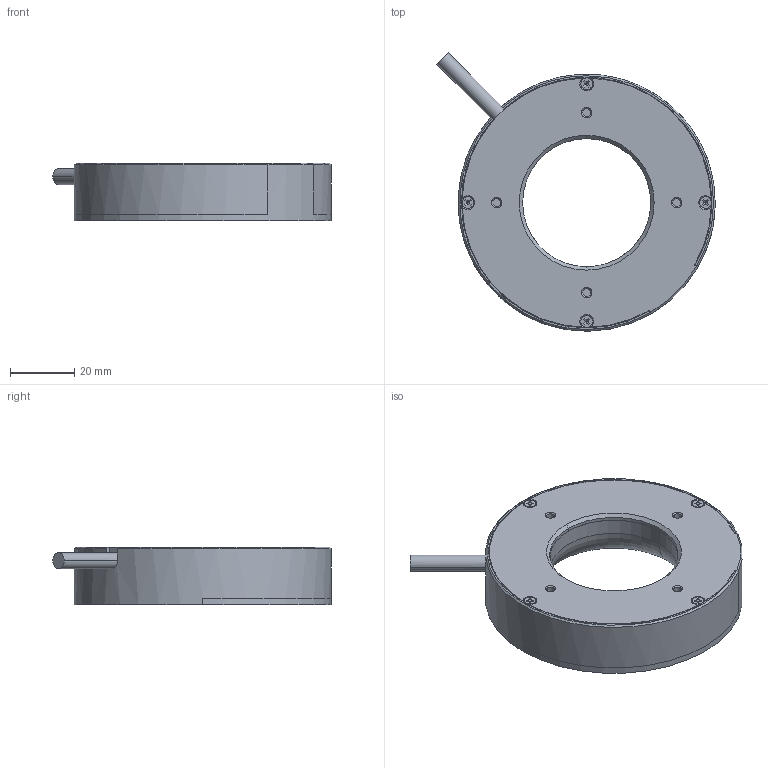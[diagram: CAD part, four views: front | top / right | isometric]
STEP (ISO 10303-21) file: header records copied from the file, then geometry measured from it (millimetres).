
FILE_DESCRIPTION((''),'2;1');
FILE_NAME('MV-LRSS-H-80-W','2022-09-02T17:07:39',('qiaoxuan5'),(''),'CREO PARAMETRIC BY PTC INC, 2020044','CREO PARAMETRIC BY PTC INC, 2020044','');
FILE_SCHEMA(('CONFIG_CONTROL_DESIGN'));
Length unit declared in the file: metre
Products named in the file (1): MV-LRSS-H-80-W
Bounding box: 86.67 x 86.67 x 18 mm (x, y, z)
Volume: 64454.5 mm3; surface area: 15413.5 mm2
Topology: 1 solids, 20 shells, 464 faces, 1082 edges, 645 vertices
Faces by surface type: plane 241, cylinder 121, cone 84, torus 18
Entity records: 13056 total; most frequent: CARTESIAN_POINT 2501, DIRECTION 2248, ORIENTED_EDGE 2120, EDGE_CURVE 1060, AXIS2_PLACEMENT_3D 820, VERTEX_POINT 645, VECTOR 608, LINE 608
